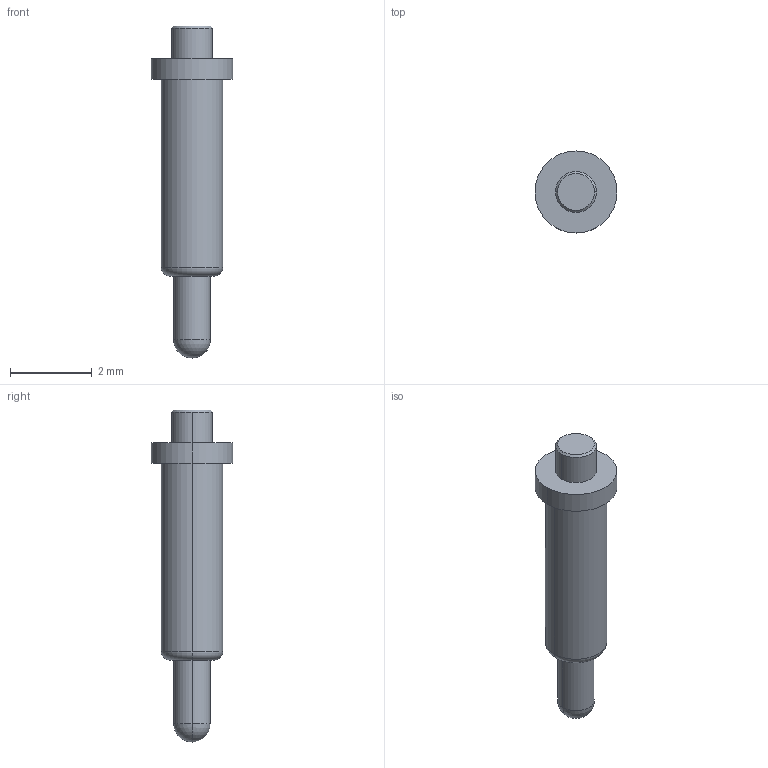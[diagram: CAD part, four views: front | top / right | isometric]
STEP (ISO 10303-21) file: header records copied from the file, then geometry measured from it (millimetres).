
FILE_DESCRIPTION((''),'2;1');
FILE_NAME('NC3649-01RA','2022-05-20T13:35:59',('Alfred You'),(''),'CREO PARAMETRIC BY PTC INC, 2018050','CREO PARAMETRIC BY PTC INC, 2018050','');
FILE_SCHEMA(('CONFIG_CONTROL_DESIGN'));
Length unit declared in the file: millimetre
Products named in the file (1): NC3649-01RA
Bounding box: 2 x 2 x 8.1 mm (x, y, z)
Volume: 11.8 mm3; surface area: 39.1 mm2
Topology: 1 solids, 1 shells, 18 faces, 36 edges, 21 vertices
Faces by surface type: cylinder 8, plane 4, sphere 2, torus 2, cone 2
Entity records: 500 total; most frequent: DIRECTION 94, CARTESIAN_POINT 73, ORIENTED_EDGE 68, AXIS2_PLACEMENT_3D 42, EDGE_CURVE 34, CIRCLE 24, VERTEX_POINT 21, EDGE_LOOP 21
